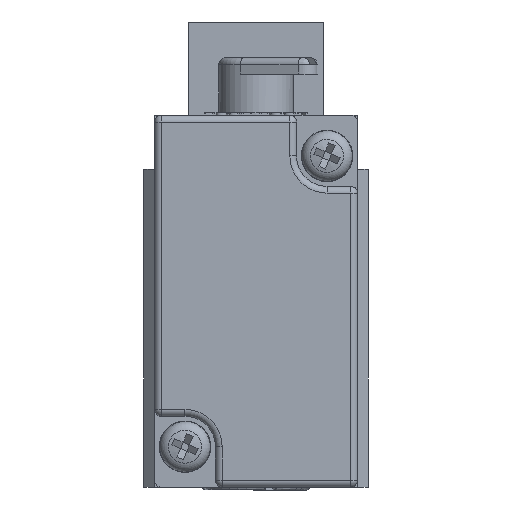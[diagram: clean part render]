
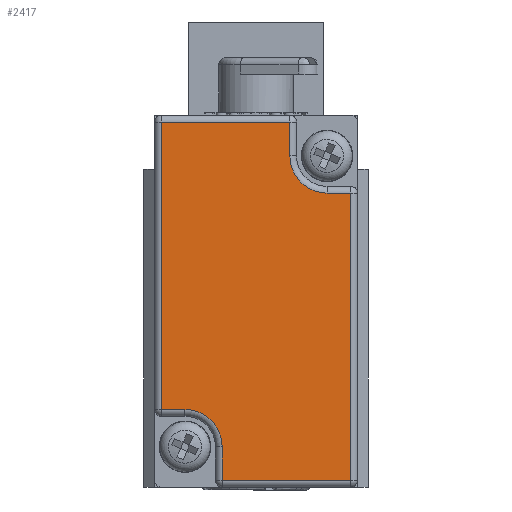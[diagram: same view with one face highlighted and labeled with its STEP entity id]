
A CAD part, left-side view. The second image highlights one B-rep face of the part: STEP entity #2417.
In plain terms, the highlighted planar face has unit normal (-1, 0, 0).
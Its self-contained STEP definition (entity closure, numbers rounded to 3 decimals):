
#1674=CARTESIAN_POINT('',(-32.8,-2.5,10.75));
#1675=VERTEX_POINT('',#1674);
#1691=CARTESIAN_POINT('',(-32.8,-2.5,13.25));
#1692=VERTEX_POINT('',#1691);
#1700=CARTESIAN_POINT('',(-32.8,-2.5,10.75));
#1701=DIRECTION('',(0.0,0.0,1.0));
#1702=VECTOR('',#1701,2.5);
#1703=LINE('',#1700,#1702);
#1704=EDGE_CURVE('',#1675,#1692,#1703,.T.);
#1716=CARTESIAN_POINT('',(-32.8,-5.25,8.));
#1717=VERTEX_POINT('',#1716);
#1725=CARTESIAN_POINT('',(-32.8,-7.,8.));
#1726=VERTEX_POINT('',#1725);
#1727=CARTESIAN_POINT('',(-32.8,-7.,8.));
#1728=DIRECTION('',(0.0,1.0,0.0));
#1729=VECTOR('',#1728,1.75);
#1730=LINE('',#1727,#1729);
#1731=EDGE_CURVE('',#1726,#1717,#1730,.T.);
#1879=CARTESIAN_POINT('',(-32.8,7.,13.25));
#1880=VERTEX_POINT('',#1879);
#1888=CARTESIAN_POINT('',(-32.8,7.,13.25));
#1889=DIRECTION('',(0.0,-1.0,0.0));
#1890=VECTOR('',#1889,9.5);
#1891=LINE('',#1888,#1890);
#1892=EDGE_CURVE('',#1692,#1880,#1891,.F.);
#1903=CARTESIAN_POINT('',(-32.8,-7.,-13.25));
#1904=VERTEX_POINT('',#1903);
#1905=CARTESIAN_POINT('',(-32.8,-7.,8.));
#1906=DIRECTION('',(0.0,0.0,-1.0));
#1907=VECTOR('',#1906,21.25);
#1908=LINE('',#1905,#1907);
#1909=EDGE_CURVE('',#1904,#1726,#1908,.F.);
#2057=CARTESIAN_POINT('',(-32.8,7.,-8.));
#2058=VERTEX_POINT('',#2057);
#2066=CARTESIAN_POINT('',(-32.8,7.,-8.));
#2067=DIRECTION('',(0.0,0.0,1.0));
#2068=VECTOR('',#2067,21.25);
#2069=LINE('',#2066,#2068);
#2070=EDGE_CURVE('',#1880,#2058,#2069,.F.);
#2081=CARTESIAN_POINT('',(-32.8,2.5,-13.25));
#2082=VERTEX_POINT('',#2081);
#2083=CARTESIAN_POINT('',(-32.8,-7.,-13.25));
#2084=DIRECTION('',(0.0,1.0,0.0));
#2085=VECTOR('',#2084,9.5);
#2086=LINE('',#2083,#2085);
#2087=EDGE_CURVE('',#2082,#1904,#2086,.F.);
#2195=CARTESIAN_POINT('',(-32.8,5.25,-8.));
#2196=VERTEX_POINT('',#2195);
#2204=CARTESIAN_POINT('',(-32.8,7.,-8.));
#2205=DIRECTION('',(0.0,-1.0,0.0));
#2206=VECTOR('',#2205,1.75);
#2207=LINE('',#2204,#2206);
#2208=EDGE_CURVE('',#2058,#2196,#2207,.T.);
#2219=CARTESIAN_POINT('',(-32.8,2.5,-10.75));
#2220=VERTEX_POINT('',#2219);
#2221=CARTESIAN_POINT('',(-32.8,2.5,-10.75));
#2222=DIRECTION('',(0.0,0.0,-1.0));
#2223=VECTOR('',#2222,2.5);
#2224=LINE('',#2221,#2223);
#2225=EDGE_CURVE('',#2220,#2082,#2224,.T.);
#2301=CARTESIAN_POINT('',(-32.8,5.25,-10.75));
#2302=DIRECTION('',(1.0,0.0,0.0));
#2303=DIRECTION('',(0.0,0.0,-1.0));
#2304=AXIS2_PLACEMENT_3D('',#2301,#2302,#2303);
#2305=CIRCLE('',#2304,2.75);
#2306=EDGE_CURVE('',#2196,#2220,#2305,.T.);
#2394=CARTESIAN_POINT('',(-32.8,0.,0.));
#2395=DIRECTION('',(1.0,0.0,0.0));
#2396=DIRECTION('',(0.0,0.0,-1.0));
#2397=AXIS2_PLACEMENT_3D('',#2394,#2395,#2396);
#2398=PLANE('',#2397);
#2399=ORIENTED_EDGE('',*,*,#2208,.T.);
#2400=ORIENTED_EDGE('',*,*,#2306,.T.);
#2401=ORIENTED_EDGE('',*,*,#2225,.T.);
#2402=ORIENTED_EDGE('',*,*,#2087,.T.);
#2403=ORIENTED_EDGE('',*,*,#1909,.T.);
#2404=ORIENTED_EDGE('',*,*,#1731,.T.);
#2405=CARTESIAN_POINT('',(-32.8,-5.25,10.75));
#2406=DIRECTION('',(1.0,0.0,0.0));
#2407=DIRECTION('',(0.0,0.0,-1.0));
#2408=AXIS2_PLACEMENT_3D('',#2405,#2406,#2407);
#2409=CIRCLE('',#2408,2.75);
#2410=EDGE_CURVE('',#1717,#1675,#2409,.T.);
#2411=ORIENTED_EDGE('',*,*,#2410,.T.);
#2412=ORIENTED_EDGE('',*,*,#1704,.T.);
#2413=ORIENTED_EDGE('',*,*,#1892,.T.);
#2414=ORIENTED_EDGE('',*,*,#2070,.T.);
#2415=EDGE_LOOP('',(#2399,#2400,#2401,#2402,#2403,#2404,#2411,#2412,#2413,#2414));
#2416=FACE_OUTER_BOUND('',#2415,.T.);
#2417=ADVANCED_FACE('',(#2416),#2398,.F.);
